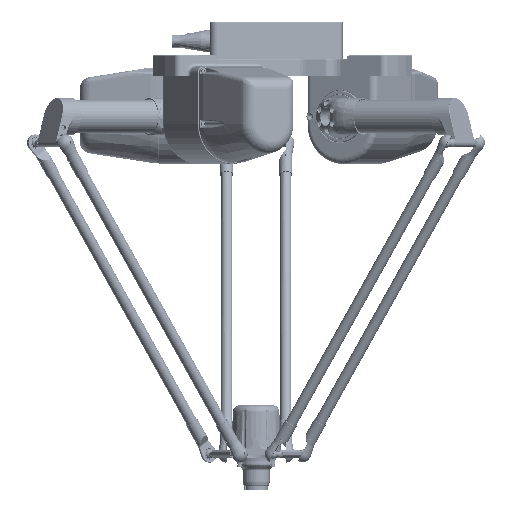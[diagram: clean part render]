
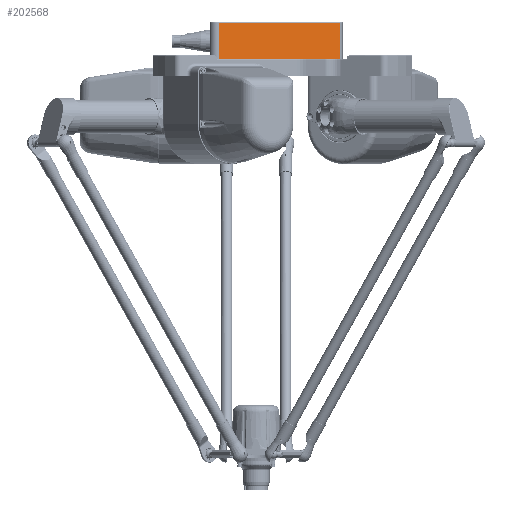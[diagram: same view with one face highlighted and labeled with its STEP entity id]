
A CAD part, left-side view. The second image highlights one B-rep face of the part: STEP entity #202568.
In plain terms, the highlighted planar face has unit normal (-0.866, -0.5, 0) as drawn and (-1, 0, 0) by its records, which use the part's own axes.
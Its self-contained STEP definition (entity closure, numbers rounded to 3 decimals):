
#19109 = FACE_OUTER_BOUND ( 'NONE', #33602, .T. ) ;
#22265 = VECTOR ( 'NONE', #26660, 1000. ) ;
#26660 = DIRECTION ( 'NONE',  ( 0., 1., 0. ) ) ;
#29278 = VECTOR ( 'NONE', #52902, 1000. ) ;
#30736 = CARTESIAN_POINT ( 'NONE',  ( 0., -166.454, 59. ) ) ;
#31619 = LINE ( 'NONE', #240590, #22265 ) ;
#33602 = EDGE_LOOP ( 'NONE', ( #169289, #168735, #185332, #161407 ) ) ;
#33753 = VERTEX_POINT ( 'NONE', #30736 ) ;
#41733 = EDGE_CURVE ( 'NONE', #33753, #184641, #31619, .T. ) ;
#41979 = CARTESIAN_POINT ( 'NONE',  ( 0., -166.454, 0. ) ) ;
#47466 = PLANE ( 'NONE',  #229417 ) ;
#50639 = LINE ( 'NONE', #251650, #230099 ) ;
#52902 = DIRECTION ( 'NONE',  ( 0., 0., 1. ) ) ;
#70495 = CARTESIAN_POINT ( 'NONE',  ( 0., -166.454, 60. ) ) ;
#92480 = EDGE_CURVE ( 'NONE', #184641, #205443, #257545, .T. ) ;
#102132 = VERTEX_POINT ( 'NONE', #41979 ) ;
#106425 = CARTESIAN_POINT ( 'NONE',  ( 0., 76.226, 60. ) ) ;
#108156 = DIRECTION ( 'NONE',  ( 1., 0., 0. ) ) ;
#111542 = EDGE_CURVE ( 'NONE', #102132, #33753, #243435, .T. ) ;
#142605 = CARTESIAN_POINT ( 'NONE',  ( 0., 58.905, 0. ) ) ;
#161407 = ORIENTED_EDGE ( 'NONE', *, *, #236959, .T. ) ;
#168735 = ORIENTED_EDGE ( 'NONE', *, *, #41733, .T. ) ;
#169289 = ORIENTED_EDGE ( 'NONE', *, *, #111542, .T. ) ;
#184641 = VERTEX_POINT ( 'NONE', #199997 ) ;
#185332 = ORIENTED_EDGE ( 'NONE', *, *, #92480, .T. ) ;
#187404 = DIRECTION ( 'NONE',  ( 0., 1., 0. ) ) ;
#199997 = CARTESIAN_POINT ( 'NONE',  ( 0., 58.905, 59. ) ) ;
#200854 = VECTOR ( 'NONE', #230267, 1000. ) ;
#202568 = ADVANCED_FACE ( 'NONE', ( #19109 ), #47466, .F. ) ;
#205443 = VERTEX_POINT ( 'NONE', #142605 ) ;
#229417 = AXIS2_PLACEMENT_3D ( 'NONE', #106425, #108156, #187404 ) ;
#230099 = VECTOR ( 'NONE', #253361, 1000. ) ;
#230267 = DIRECTION ( 'NONE',  ( 0., 0., -1. ) ) ;
#236959 = EDGE_CURVE ( 'NONE', #205443, #102132, #50639, .T. ) ;
#240590 = CARTESIAN_POINT ( 'NONE',  ( 0., 58.905, 59. ) ) ;
#243435 = LINE ( 'NONE', #70495, #29278 ) ;
#251423 = CARTESIAN_POINT ( 'NONE',  ( 0., 58.905, 60. ) ) ;
#251650 = CARTESIAN_POINT ( 'NONE',  ( 0., 76.226, 0. ) ) ;
#253361 = DIRECTION ( 'NONE',  ( 0., -1., 0. ) ) ;
#257545 = LINE ( 'NONE', #251423, #200854 ) ;
